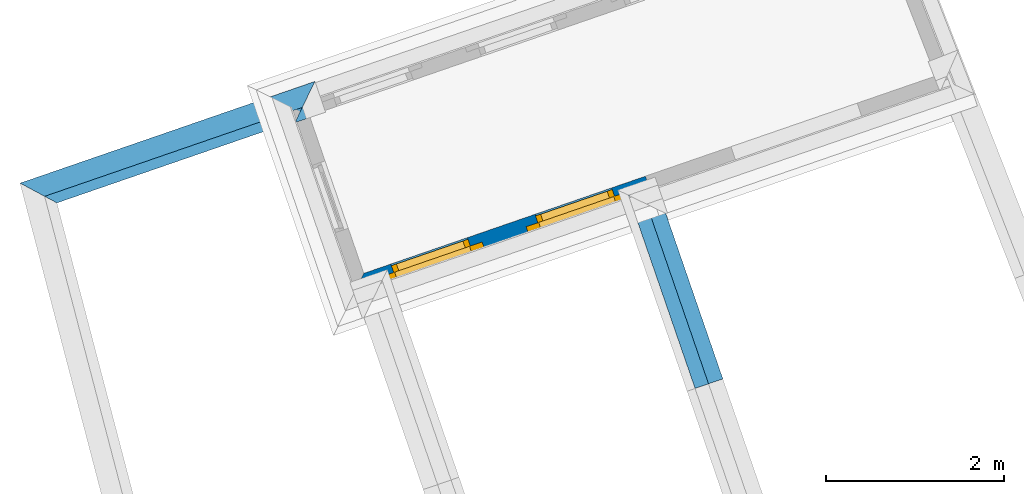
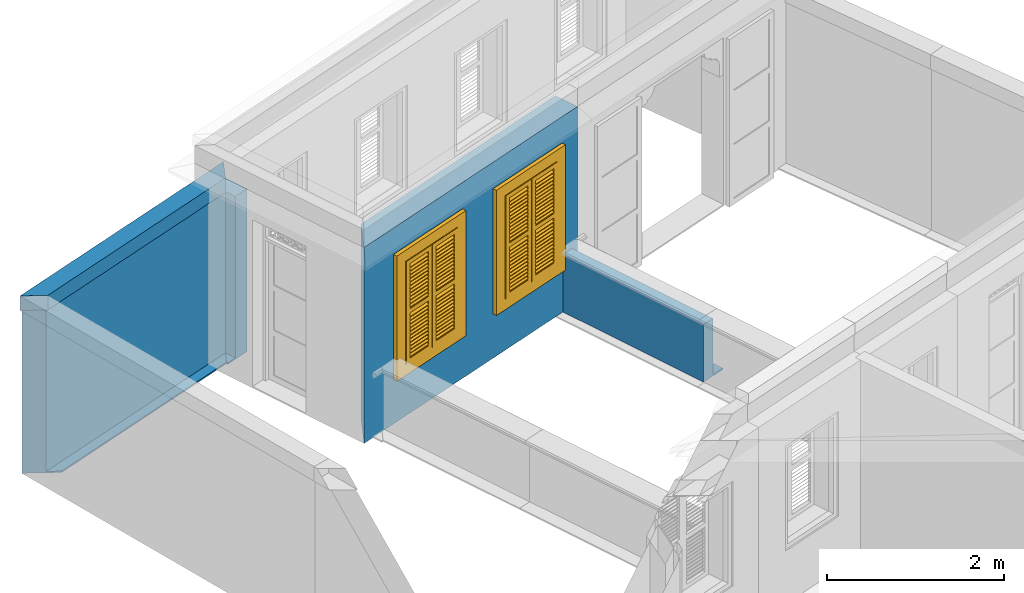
# One storey, part 11 of 16: 5 walls, 2 windows, 2 openings.
"""IFC4 building model written with IfcOpenShell, lengths in metres."""

from ifc_helpers import new_model, si_unit, frame, origin, origin_with_axes, place, context, subcontext, project, spatial, polyline, outline, extrude, clip, halfspace, faceted_brep, source, transform, mapped, material, layer, layer_set, layer_usage, material_profile, profile_set, profile_usage, type_object, type_shapes, element, fill, save


model = new_model("IFC4")

# Units and contexts
model_context = context("Model", 3, world=origin_with_axes())
body_context = subcontext(model_context, "Body", "Model", "MODEL_VIEW")
ifc_project = project(units=[si_unit("PLANEANGLEUNIT", "RADIAN"), si_unit("MASSUNIT", "GRAM", prefix="KILO"), si_unit("FORCEUNIT", "NEWTON", prefix="KILO"), si_unit("LENGTHUNIT", "METRE"), si_unit("AREAUNIT", "SQUARE_METRE"), si_unit("VOLUMEUNIT", "CUBIC_METRE")], contexts=[model_context, model_context])

# Site, building, storey
site_placement = place(None, origin_with_axes())
site = spatial("IfcSite", under=ifc_project, at=site_placement, Name="Site plot-8", CompositionType="ELEMENT")
building_placement = place(None, origin_with_axes())
building = spatial("IfcBuilding", under=site, at=building_placement, Name="Building plot-8", CompositionType="ELEMENT")
storey_placement = place(None, frame((0.0, 0.0, 3.0), z_axis=(0.0, 0.0, 1.0), x_axis=(1.0, 0.0, 0.0)))
storey = spatial("IfcBuildingStorey", under=building, at=storey_placement, Name="plot-8 1", CompositionType="ELEMENT", Elevation=3.0)

# Wall, openings, windows
ifc_material = material(Name="Masonry")
ifc_layer = layer(ifc_material, 0.33, ventilated=False)
ifc_layer_set = layer_set([ifc_layer], Name="exterior_0.08_0.25")
ifc_layer_usage = layer_usage(ifc_layer_set, "AXIS2", "POSITIVE", -0.25)
wall_type_1 = type_object("IfcWallType", Name="exterior_0.08_0.25", PredefinedType="SOLIDWALL", material=ifc_layer_set)
wall_1_placement = place(storey_placement, frame((-11.6006556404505, 20.5643458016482, 0.0), z_axis=(0.0, 0.0, 1.0), x_axis=(0.945331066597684, 0.326112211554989, 0.0)))
wall_1 = element("IfcWall", 1, at=wall_1_placement, inside=storey, type_object=wall_type_1, material=ifc_layer_usage, Name="exterior", context=body_context, shape_type="SweptSolid", body=[
    extrude(outline(polyline([(0.0799999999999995, 0.0800000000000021), (-0.25, -0.25), (3.4250971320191, -0.250000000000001), (3.4250971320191, 0.0799999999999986), (0.0799999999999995, 0.0800000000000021)])), origin_with_axes(), (0.0, 0.0, 1.0), 2.7),
])
opening_1_placement = place(wall_1_placement, frame((0.401274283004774, 0.0, 0.75)))
opening_1 = element("IfcOpeningElement", 2, at=opening_1_placement, cuts=wall_1, Name="My Opening", ObjectType="Opening", context=body_context, shape_type="SweptSolid", body=[
    extrude(outline(polyline([(0.0, -0.270000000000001), (0.910000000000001, -0.270000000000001), (0.910000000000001, 1.1), (5.55111512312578e-17, 1.1), (0.0, -0.270000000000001)])), origin_with_axes(), (0.0, 0.0, 1.0), 1.445),
])
opening_2_placement = place(wall_1_placement, frame((2.11382284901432, 0.0, 0.75)))
opening_2 = element("IfcOpeningElement", 3, at=opening_2_placement, cuts=wall_1, Name="My Opening", ObjectType="Opening", context=body_context, shape_type="SweptSolid", body=[
    extrude(outline(polyline([(0.0, -0.269999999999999), (0.91, -0.269999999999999), (0.91, 1.1), (-1.33226762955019e-15, 1.1), (0.0, -0.269999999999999)])), origin_with_axes(), (0.0, 0.0, 1.0), 1.445),
])
window_type = type_object("IfcWindowType", Name="shuttered_shorter", PartitioningType="DOUBLE_PANEL_HORIZONTAL", PredefinedType="NOTDEFINED")
shared_shape = source(origin(), body_context, "Body", "Brep", [
    faceted_brep([(0.393, 0.0, 0.622), (0.074, 0.0, 0.622), (0.074, 0.0, 0.632), (0.393, 0.0, 0.632), (0.074, -0.04, 0.592), (0.393, -0.04, 0.592), (0.393, -0.04, 0.582), (0.074, -0.04, 0.582), (0.517, 0.0, 0.682), (0.836, 0.0, 0.682), (0.836, 0.0, 0.672), (0.517, 0.0, 0.672), (0.517, -0.04, 0.642), (0.836, -0.04, 0.642), (0.836, -0.04, 0.632), (0.517, -0.04, 0.632), (0.517, 0.0, 0.632), (0.836, 0.0, 0.632), (0.836, 0.0, 0.622), (0.517, 0.0, 0.622), (0.517, -0.04, 0.592), (0.836, -0.04, 0.592), (0.836, -0.04, 0.582), (0.517, -0.04, 0.582), (0.517, 0.0, 0.232), (0.836, 0.0, 0.232), (0.836, 0.0, 0.222), (0.517, 0.0, 0.222), (0.517, -0.04, 0.192), (0.836, -0.04, 0.192), (0.836, -0.04, 0.182), (0.517, -0.04, 0.182), (0.517, 0.0, 0.532), (0.836, 0.0, 0.532), (0.836, 0.0, 0.522), (0.517, 0.0, 0.522), (0.517, -0.04, 0.492), (0.836, -0.04, 0.492), (0.836, -0.04, 0.482), (0.517, -0.04, 0.482), (0.517, 0.0, 0.482), (0.836, 0.0, 0.482), (0.836, 0.0, 0.472), (0.517, 0.0, 0.472), (0.517, -0.04, 0.442), (0.836, -0.04, 0.442), (0.836, -0.04, 0.432), (0.517, -0.04, 0.432), (0.517, 0.0, 0.582), (0.836, 0.0, 0.582), (0.836, 0.0, 0.572), (0.517, 0.0, 0.572), (0.517, -0.04, 0.542), (0.836, -0.04, 0.542), (0.836, -0.04, 0.532), (0.517, -0.04, 0.532), (0.517, 0.0, 0.182), (0.836, 0.0, 0.182), (0.836, 0.0, 0.172), (0.517, 0.0, 0.172), (0.517, -0.04, 0.142), (0.836, -0.04, 0.142), (0.836, -0.04, 0.132), (0.517, -0.04, 0.132), (0.517, 0.0, 0.382), (0.836, 0.0, 0.382), (0.836, 0.0, 0.372), (0.517, 0.0, 0.372), (0.517, -0.04, 0.342), (0.836, -0.04, 0.342), (0.836, -0.04, 0.332), (0.517, -0.04, 0.332), (0.517, 0.0, 0.432), (0.836, 0.0, 0.432), (0.836, 0.0, 0.422), (0.517, 0.0, 0.422), (0.517, -0.04, 0.392), (0.836, -0.04, 0.392), (0.836, -0.04, 0.382), (0.517, -0.04, 0.382), (0.517, 0.0, 0.132), (0.836, 0.0, 0.132), (0.836, 0.0, 0.122), (0.517, 0.0, 0.122), (0.517, -0.04, 0.092), (0.836, -0.04, 0.092), (0.836, -0.04, 0.082), (0.517, -0.04, 0.082), (0.517, 0.0, 0.282), (0.836, 0.0, 0.282), (0.836, 0.0, 0.272), (0.517, 0.0, 0.272), (0.517, -0.04, 0.242), (0.836, -0.04, 0.242), (0.836, -0.04, 0.232), (0.517, -0.04, 0.232), (0.517, 0.0, 0.332), (0.836, 0.0, 0.332), (0.836, 0.0, 0.322), (0.517, 0.0, 0.322), (0.517, -0.04, 0.292), (0.836, -0.04, 0.292), (0.836, -0.04, 0.282), (0.517, -0.04, 0.282), (0.517, 0.0, 1.362667), (0.836, 0.0, 1.362667), (0.836, 0.0, 1.352667), (0.517, 0.0, 1.352667), (0.517, -0.04, 1.322667), (0.836, -0.04, 1.322667), (0.836, -0.04, 1.312667), (0.517, -0.04, 1.312667), (0.517, 0.0, 1.312667), (0.836, 0.0, 1.312667), (0.836, 0.0, 1.302667), (0.517, 0.0, 1.302667), (0.517, -0.04, 1.272667), (0.836, -0.04, 1.272667), (0.836, -0.04, 1.262667), (0.517, -0.04, 1.262667), (0.517, 0.0, 0.912667), (0.836, 0.0, 0.912667), (0.836, 0.0, 0.902667), (0.517, 0.0, 0.902667), (0.517, -0.04, 0.872667), (0.836, -0.04, 0.872667), (0.836, -0.04, 0.862667), (0.517, -0.04, 0.862667), (0.517, 0.0, 1.212667), (0.836, 0.0, 1.212667), (0.836, 0.0, 1.202667), (0.517, 0.0, 1.202667), (0.517, -0.04, 1.172667), (0.836, -0.04, 1.172667), (0.836, -0.04, 1.162667), (0.517, -0.04, 1.162667), (0.517, 0.0, 1.162667), (0.836, 0.0, 1.162667), (0.836, 0.0, 1.152667), (0.517, 0.0, 1.152667), (0.517, -0.04, 1.122667), (0.836, -0.04, 1.122667), (0.836, -0.04, 1.112667), (0.517, -0.04, 1.112667), (0.517, 0.0, 1.262667), (0.836, 0.0, 1.262667), (0.836, 0.0, 1.252667), (0.517, 0.0, 1.252667), (0.517, -0.04, 1.222667), (0.836, -0.04, 1.222667), (0.836, -0.04, 1.212667), (0.517, -0.04, 1.212667), (0.517, 0.0, 0.862667), (0.836, 0.0, 0.862667), (0.836, 0.0, 0.852667), (0.517, 0.0, 0.852667), (0.517, -0.04, 0.822667), (0.836, -0.04, 0.822667), (0.836, -0.04, 0.812667), (0.517, -0.04, 0.812667), (0.517, 0.0, 1.062667), (0.836, 0.0, 1.062667), (0.836, 0.0, 1.052667), (0.517, 0.0, 1.052667), (0.517, -0.04, 1.022667), (0.836, -0.04, 1.022667), (0.836, -0.04, 1.012667), (0.517, -0.04, 1.012667), (0.517, 0.0, 1.112667), (0.836, 0.0, 1.112667), (0.836, 0.0, 1.102667), (0.517, 0.0, 1.102667), (0.517, -0.04, 1.072667), (0.836, -0.04, 1.072667), (0.836, -0.04, 1.062667), (0.517, -0.04, 1.062667), (0.517, 0.0, 0.812667), (0.836, 0.0, 0.812667), (0.836, 0.0, 0.802667), (0.517, 0.0, 0.802667), (0.517, -0.04, 0.772667), (0.836, -0.04, 0.772667), (0.836, -0.04, 0.762667), (0.517, -0.04, 0.762667), (0.517, 0.0, 0.962667), (0.836, 0.0, 0.962667), (0.836, 0.0, 0.952667), (0.517, 0.0, 0.952667), (0.517, -0.04, 0.922667), (0.836, -0.04, 0.922667), (0.836, -0.04, 0.912667), (0.517, -0.04, 0.912667), (0.517, 0.0, 1.012667), (0.836, 0.0, 1.012667), (0.836, 0.0, 1.002667), (0.517, 0.0, 1.002667), (0.517, -0.04, 0.972667), (0.836, -0.04, 0.972667), (0.836, -0.04, 0.962667), (0.517, -0.04, 0.962667), (0.074, 0.0, 0.682), (0.393, 0.0, 0.682), (0.393, 0.0, 0.672), (0.074, 0.0, 0.672), (0.074, -0.04, 0.642), (0.393, -0.04, 0.642), (0.393, -0.04, 0.632), (0.074, -0.04, 0.632), (0.074, 0.0, 0.232), (0.393, 0.0, 0.232), (0.393, 0.0, 0.222), (0.074, 0.0, 0.222), (0.074, -0.04, 0.192), (0.393, -0.04, 0.192), (0.393, -0.04, 0.182), (0.074, -0.04, 0.182), (0.074, 0.0, 0.532), (0.393, 0.0, 0.532), (0.393, 0.0, 0.522), (0.074, 0.0, 0.522), (0.074, -0.04, 0.492), (0.393, -0.04, 0.492), (0.393, -0.04, 0.482), (0.074, -0.04, 0.482), (0.074, 0.0, 0.482), (0.393, 0.0, 0.482), (0.393, 0.0, 0.472), (0.074, 0.0, 0.472), (0.074, -0.04, 0.442), (0.393, -0.04, 0.442), (0.393, -0.04, 0.432), (0.074, -0.04, 0.432), (0.074, 0.0, 0.582), (0.393, 0.0, 0.582), (0.393, 0.0, 0.572), (0.074, 0.0, 0.572), (0.074, -0.04, 0.542), (0.393, -0.04, 0.542), (0.393, -0.04, 0.532), (0.074, -0.04, 0.532), (0.074, 0.0, 0.182), (0.393, 0.0, 0.182), (0.393, 0.0, 0.172), (0.074, 0.0, 0.172), (0.074, -0.04, 0.142), (0.393, -0.04, 0.142), (0.393, -0.04, 0.132), (0.074, -0.04, 0.132), (0.074, 0.0, 0.382), (0.393, 0.0, 0.382), (0.393, 0.0, 0.372), (0.074, 0.0, 0.372), (0.074, -0.04, 0.342), (0.393, -0.04, 0.342), (0.393, -0.04, 0.332), (0.074, -0.04, 0.332), (0.074, 0.0, 0.432), (0.393, 0.0, 0.432), (0.393, 0.0, 0.422), (0.074, 0.0, 0.422), (0.074, -0.04, 0.392), (0.393, -0.04, 0.392), (0.393, -0.04, 0.382), (0.074, -0.04, 0.382), (0.074, 0.0, 0.132), (0.393, 0.0, 0.132), (0.393, 0.0, 0.122), (0.074, 0.0, 0.122), (0.074, -0.04, 0.092), (0.393, -0.04, 0.092), (0.393, -0.04, 0.082), (0.074, -0.04, 0.082), (0.074, 0.0, 0.282), (0.393, 0.0, 0.282), (0.393, 0.0, 0.272), (0.074, 0.0, 0.272), (0.074, -0.04, 0.242), (0.393, -0.04, 0.242), (0.393, -0.04, 0.232), (0.074, -0.04, 0.232), (0.074, 0.0, 0.332), (0.393, 0.0, 0.332), (0.393, 0.0, 0.322), (0.074, 0.0, 0.322), (0.074, -0.04, 0.292), (0.393, -0.04, 0.292), (0.393, -0.04, 0.282), (0.074, -0.04, 0.282), (0.074, 0.0, 1.362667), (0.393, 0.0, 1.362667), (0.393, 0.0, 1.352667), (0.074, 0.0, 1.352667), (0.074, -0.04, 1.322667), (0.393, -0.04, 1.322667), (0.393, -0.04, 1.312667), (0.074, -0.04, 1.312667), (0.074, 0.0, 1.312667), (0.393, 0.0, 1.312667), (0.393, 0.0, 1.302667), (0.074, 0.0, 1.302667), (0.074, -0.04, 1.272667), (0.393, -0.04, 1.272667), (0.393, -0.04, 1.262667), (0.074, -0.04, 1.262667), (0.074, 0.0, 0.912667), (0.393, 0.0, 0.912667), (0.393, 0.0, 0.902667), (0.074, 0.0, 0.902667), (0.074, -0.04, 0.872667), (0.393, -0.04, 0.872667), (0.393, -0.04, 0.862667), (0.074, -0.04, 0.862667), (0.074, 0.0, 1.212667), (0.393, 0.0, 1.212667), (0.393, 0.0, 1.202667), (0.074, 0.0, 1.202667), (0.074, -0.04, 1.172667), (0.393, -0.04, 1.172667), (0.393, -0.04, 1.162667), (0.074, -0.04, 1.162667), (0.074, 0.0, 1.162667), (0.393, 0.0, 1.162667), (0.393, 0.0, 1.152667), (0.074, 0.0, 1.152667), (0.074, -0.04, 1.122667), (0.393, -0.04, 1.122667), (0.393, -0.04, 1.112667), (0.074, -0.04, 1.112667), (0.074, 0.0, 1.262667), (0.393, 0.0, 1.262667), (0.393, 0.0, 1.252667), (0.074, 0.0, 1.252667), (0.074, -0.04, 1.222667), (0.393, -0.04, 1.222667), (0.393, -0.04, 1.212667), (0.074, -0.04, 1.212667), (0.074, 0.0, 0.862667), (0.393, 0.0, 0.862667), (0.393, 0.0, 0.852667), (0.074, 0.0, 0.852667), (0.074, -0.04, 0.822667), (0.393, -0.04, 0.822667), (0.393, -0.04, 0.812667), (0.074, -0.04, 0.812667), (0.074, 0.0, 1.062667), (0.393, 0.0, 1.062667), (0.393, 0.0, 1.052667), (0.074, 0.0, 1.052667), (0.074, -0.04, 1.022667), (0.393, -0.04, 1.022667), (0.393, -0.04, 1.012667), (0.074, -0.04, 1.012667), (0.074, 0.0, 1.112667), (0.393, 0.0, 1.112667), (0.393, 0.0, 1.102667), (0.074, 0.0, 1.102667), (0.074, -0.04, 1.072667), (0.393, -0.04, 1.072667), (0.393, -0.04, 1.062667), (0.074, -0.04, 1.062667), (0.074, 0.0, 0.812667), (0.393, 0.0, 0.812667), (0.393, 0.0, 0.802667), (0.074, 0.0, 0.802667), (0.074, -0.04, 0.772667), (0.393, -0.04, 0.772667), (0.393, -0.04, 0.762667), (0.074, -0.04, 0.762667), (0.074, 0.0, 0.962667), (0.393, 0.0, 0.962667), (0.393, 0.0, 0.952667), (0.074, 0.0, 0.952667), (0.074, -0.04, 0.922667), (0.393, -0.04, 0.922667), (0.393, -0.04, 0.912667), (0.074, -0.04, 0.912667), (0.074, 0.0, 1.012667), (0.393, 0.0, 1.012667), (0.393, 0.0, 1.002667), (0.074, 0.0, 1.002667), (0.074, -0.04, 0.972667), (0.393, -0.04, 0.972667), (0.393, -0.04, 0.962667), (0.074, -0.04, 0.962667), (0.517, -0.04, 0.072), (0.457, -0.04, 0.012), (0.896, -0.04, 0.012), (0.836, -0.04, 0.072), (0.457, -0.04, 0.692667), (0.517, -0.04, 0.692667), (0.457, 0.0, 0.012), (0.896, 0.0, 0.012), (0.836, -0.04, 0.692667), (0.896, -0.04, 0.692667), (0.836, 0.0, 0.072), (0.517, 0.0, 0.072), (0.457, 0.0, 0.692667), (0.517, 0.0, 0.692667), (0.517, -0.04, 0.752666), (0.457, -0.04, 0.752666), (0.896, 0.0, 0.692667), (0.836, 0.0, 0.692667), (0.836, -0.04, 0.752666), (0.896, -0.04, 0.752666), (0.457, 0.0, 0.752666), (0.457, -0.04, 1.433333), (0.517, -0.04, 1.373333), (0.896, 0.0, 0.752666), (0.836, -0.04, 1.373333), (0.896, -0.04, 1.433333), (0.457, 0.0, 1.433333), (0.517, 0.0, 0.752666), (0.836, 0.0, 0.752666), (0.517, 0.0, 1.373333), (0.896, 0.0, 1.433333), (0.836, 0.0, 1.373333), (0.074, -0.04, 0.072), (0.014, -0.04, 0.012), (0.453, -0.04, 0.012), (0.393, -0.04, 0.072), (0.014, -0.04, 0.692667), (0.074, -0.04, 0.692667), (0.014, 0.0, 0.012), (0.453, 0.0, 0.012), (0.393, -0.04, 0.692667), (0.453, -0.04, 0.692667), (0.393, 0.0, 0.072), (0.074, 0.0, 0.072), (0.014, 0.0, 0.692667), (0.074, 0.0, 0.692667), (0.074, -0.04, 0.752666), (0.014, -0.04, 0.752666), (0.453, 0.0, 0.692667), (0.393, 0.0, 0.692667), (0.393, -0.04, 0.752666), (0.453, -0.04, 0.752666), (0.014, 0.0, 0.752666), (0.014, -0.04, 1.433333), (0.074, -0.04, 1.373333), (0.453, 0.0, 0.752666), (0.393, -0.04, 1.373333), (0.453, -0.04, 1.433333), (0.014, 0.0, 1.433333), (0.074, 0.0, 0.752666), (0.393, 0.0, 0.752666), (0.074, 0.0, 1.373333), (0.453, 0.0, 1.433333), (0.393, 0.0, 1.373333), (0.0, 0.33, 1.445), (0.91, 0.33, 1.445), (0.85, 0.33, 1.385), (0.06, 0.33, 1.385), (0.91, 0.25, 1.445), (0.0, 0.25, 1.445), (0.91, 0.25, 1.445), (0.85, 0.33, 0.06), (0.91, 0.33, 0.0), (0.85, 0.25, 1.385), (0.06, 0.25, 1.385), (0.0, 0.33, 0.0), (0.06, 0.33, 0.06), (0.0, 0.25, 0.0), (0.91, 0.25, 0.0), (0.85, 0.25, 0.06), (0.06, 0.25, 0.06), (1.05, 0.25, 1.585), (-0.14, 0.25, 1.585), (-0.14, -0.03, 1.585), (1.05, -0.03, 1.585), (0.9, -0.03, 1.435), (0.01, -0.03, 1.435), (0.01, 0.25, 1.435), (0.9, 0.25, 1.435), (0.9, 0.25, 0.01), (0.9, -0.03, 0.01), (1.05, -0.03, -0.14), (1.05, 0.25, -0.14), (0.01, -0.03, 0.01), (0.01, 0.25, 0.01), (-0.14, -0.03, -0.14), (-0.14, 0.25, -0.14)], [[[0, 1, 2, 3]], [[4, 5, 3, 2]], [[5, 6, 0, 3]], [[1, 0, 6, 7]], [[2, 1, 7, 4]], [[5, 4, 7, 6]], [[8, 9, 10, 11]], [[12, 13, 9, 8]], [[13, 14, 10, 9]], [[14, 15, 11, 10]], [[15, 12, 8, 11]], [[13, 12, 15, 14]], [[16, 17, 18, 19]], [[20, 21, 17, 16]], [[21, 22, 18, 17]], [[22, 23, 19, 18]], [[23, 20, 16, 19]], [[21, 20, 23, 22]], [[24, 25, 26, 27]], [[28, 29, 25, 24]], [[29, 30, 26, 25]], [[30, 31, 27, 26]], [[31, 28, 24, 27]], [[29, 28, 31, 30]], [[32, 33, 34, 35]], [[36, 37, 33, 32]], [[37, 38, 34, 33]], [[38, 39, 35, 34]], [[39, 36, 32, 35]], [[37, 36, 39, 38]], [[40, 41, 42, 43]], [[44, 45, 41, 40]], [[45, 46, 42, 41]], [[46, 47, 43, 42]], [[47, 44, 40, 43]], [[45, 44, 47, 46]], [[48, 49, 50, 51]], [[52, 53, 49, 48]], [[53, 54, 50, 49]], [[54, 55, 51, 50]], [[55, 52, 48, 51]], [[53, 52, 55, 54]], [[56, 57, 58, 59]], [[60, 61, 57, 56]], [[61, 62, 58, 57]], [[62, 63, 59, 58]], [[63, 60, 56, 59]], [[61, 60, 63, 62]], [[64, 65, 66, 67]], [[68, 69, 65, 64]], [[69, 70, 66, 65]], [[70, 71, 67, 66]], [[71, 68, 64, 67]], [[69, 68, 71, 70]], [[72, 73, 74, 75]], [[76, 77, 73, 72]], [[77, 78, 74, 73]], [[78, 79, 75, 74]], [[79, 76, 72, 75]], [[77, 76, 79, 78]], [[80, 81, 82, 83]], [[84, 85, 81, 80]], [[85, 86, 82, 81]], [[86, 87, 83, 82]], [[87, 84, 80, 83]], [[85, 84, 87, 86]], [[88, 89, 90, 91]], [[92, 93, 89, 88]], [[93, 94, 90, 89]], [[94, 95, 91, 90]], [[95, 92, 88, 91]], [[93, 92, 95, 94]], [[96, 97, 98, 99]], [[100, 101, 97, 96]], [[101, 102, 98, 97]], [[102, 103, 99, 98]], [[103, 100, 96, 99]], [[101, 100, 103, 102]], [[104, 105, 106, 107]], [[108, 109, 105, 104]], [[109, 110, 106, 105]], [[110, 111, 107, 106]], [[111, 108, 104, 107]], [[109, 108, 111, 110]], [[112, 113, 114, 115]], [[116, 117, 113, 112]], [[117, 118, 114, 113]], [[118, 119, 115, 114]], [[119, 116, 112, 115]], [[117, 116, 119, 118]], [[120, 121, 122, 123]], [[124, 125, 121, 120]], [[125, 126, 122, 121]], [[126, 127, 123, 122]], [[127, 124, 120, 123]], [[125, 124, 127, 126]], [[128, 129, 130, 131]], [[132, 133, 129, 128]], [[133, 134, 130, 129]], [[134, 135, 131, 130]], [[135, 132, 128, 131]], [[133, 132, 135, 134]], [[136, 137, 138, 139]], [[140, 141, 137, 136]], [[141, 142, 138, 137]], [[142, 143, 139, 138]], [[139, 143, 140, 136]], [[141, 140, 143, 142]], [[144, 145, 146, 147]], [[148, 149, 145, 144]], [[149, 150, 146, 145]], [[150, 151, 147, 146]], [[151, 148, 144, 147]], [[149, 148, 151, 150]], [[152, 153, 154, 155]], [[156, 157, 153, 152]], [[157, 158, 154, 153]], [[158, 159, 155, 154]], [[159, 156, 152, 155]], [[157, 156, 159, 158]], [[160, 161, 162, 163]], [[164, 165, 161, 160]], [[165, 166, 162, 161]], [[166, 167, 163, 162]], [[167, 164, 160, 163]], [[165, 164, 167, 166]], [[168, 169, 170, 171]], [[172, 173, 169, 168]], [[173, 174, 170, 169]], [[174, 175, 171, 170]], [[175, 172, 168, 171]], [[173, 172, 175, 174]], [[176, 177, 178, 179]], [[180, 181, 177, 176]], [[181, 182, 178, 177]], [[182, 183, 179, 178]], [[183, 180, 176, 179]], [[181, 180, 183, 182]], [[184, 185, 186, 187]], [[188, 189, 185, 184]], [[189, 190, 186, 185]], [[190, 191, 187, 186]], [[191, 188, 184, 187]], [[189, 188, 191, 190]], [[192, 193, 194, 195]], [[196, 197, 193, 192]], [[197, 198, 194, 193]], [[198, 199, 195, 194]], [[199, 196, 192, 195]], [[197, 196, 199, 198]], [[200, 201, 202, 203]], [[204, 205, 201, 200]], [[205, 206, 202, 201]], [[206, 207, 203, 202]], [[207, 204, 200, 203]], [[205, 204, 207, 206]], [[208, 209, 210, 211]], [[212, 213, 209, 208]], [[213, 214, 210, 209]], [[214, 215, 211, 210]], [[215, 212, 208, 211]], [[213, 212, 215, 214]], [[216, 217, 218, 219]], [[220, 221, 217, 216]], [[221, 222, 218, 217]], [[222, 223, 219, 218]], [[223, 220, 216, 219]], [[221, 220, 223, 222]], [[224, 225, 226, 227]], [[228, 229, 225, 224]], [[229, 230, 226, 225]], [[230, 231, 227, 226]], [[231, 228, 224, 227]], [[229, 228, 231, 230]], [[232, 233, 234, 235]], [[236, 237, 233, 232]], [[237, 238, 234, 233]], [[238, 239, 235, 234]], [[239, 236, 232, 235]], [[237, 236, 239, 238]], [[240, 241, 242, 243]], [[244, 245, 241, 240]], [[245, 246, 242, 241]], [[246, 247, 243, 242]], [[247, 244, 240, 243]], [[245, 244, 247, 246]], [[248, 249, 250, 251]], [[252, 253, 249, 248]], [[253, 254, 250, 249]], [[254, 255, 251, 250]], [[255, 252, 248, 251]], [[253, 252, 255, 254]], [[256, 257, 258, 259]], [[260, 261, 257, 256]], [[261, 262, 258, 257]], [[262, 263, 259, 258]], [[263, 260, 256, 259]], [[261, 260, 263, 262]], [[264, 265, 266, 267]], [[268, 269, 265, 264]], [[269, 270, 266, 265]], [[270, 271, 267, 266]], [[271, 268, 264, 267]], [[269, 268, 271, 270]], [[272, 273, 274, 275]], [[276, 277, 273, 272]], [[277, 278, 274, 273]], [[278, 279, 275, 274]], [[279, 276, 272, 275]], [[277, 276, 279, 278]], [[280, 281, 282, 283]], [[284, 285, 281, 280]], [[285, 286, 282, 281]], [[286, 287, 283, 282]], [[287, 284, 280, 283]], [[285, 284, 287, 286]], [[288, 289, 290, 291]], [[292, 293, 289, 288]], [[293, 294, 290, 289]], [[294, 295, 291, 290]], [[295, 292, 288, 291]], [[293, 292, 295, 294]], [[296, 297, 298, 299]], [[300, 301, 297, 296]], [[301, 302, 298, 297]], [[302, 303, 299, 298]], [[303, 300, 296, 299]], [[301, 300, 303, 302]], [[304, 305, 306, 307]], [[308, 309, 305, 304]], [[309, 310, 306, 305]], [[310, 311, 307, 306]], [[311, 308, 304, 307]], [[309, 308, 311, 310]], [[312, 313, 314, 315]], [[316, 317, 313, 312]], [[317, 318, 314, 313]], [[318, 319, 315, 314]], [[319, 316, 312, 315]], [[317, 316, 319, 318]], [[320, 321, 322, 323]], [[324, 325, 321, 320]], [[325, 326, 322, 321]], [[326, 327, 323, 322]], [[327, 324, 320, 323]], [[325, 324, 327, 326]], [[328, 329, 330, 331]], [[332, 333, 329, 328]], [[333, 334, 330, 329]], [[334, 335, 331, 330]], [[335, 332, 328, 331]], [[333, 332, 335, 334]], [[336, 337, 338, 339]], [[340, 341, 337, 336]], [[341, 342, 338, 337]], [[342, 343, 339, 338]], [[343, 340, 336, 339]], [[341, 340, 343, 342]], [[344, 345, 346, 347]], [[348, 349, 345, 344]], [[349, 350, 346, 345]], [[350, 351, 347, 346]], [[351, 348, 344, 347]], [[349, 348, 351, 350]], [[352, 353, 354, 355]], [[356, 357, 353, 352]], [[357, 358, 354, 353]], [[358, 359, 355, 354]], [[359, 356, 352, 355]], [[357, 356, 359, 358]], [[360, 361, 362, 363]], [[364, 365, 361, 360]], [[365, 366, 362, 361]], [[366, 367, 363, 362]], [[367, 364, 360, 363]], [[365, 364, 367, 366]], [[368, 369, 370, 371]], [[372, 373, 369, 368]], [[373, 374, 370, 369]], [[374, 375, 371, 370]], [[375, 372, 368, 371]], [[373, 372, 375, 374]], [[376, 377, 378, 379]], [[380, 381, 377, 376]], [[381, 382, 378, 377]], [[382, 383, 379, 378]], [[383, 380, 376, 379]], [[381, 380, 383, 382]], [[384, 385, 386, 387]], [[388, 385, 384, 389]], [[390, 391, 386, 385]], [[392, 387, 386, 393]], [[384, 387, 394, 395]], [[390, 385, 388, 396]], [[389, 384, 395, 397]], [[389, 398, 399, 388]], [[390, 395, 394, 391]], [[400, 393, 386, 391]], [[387, 392, 401, 394]], [[402, 392, 393, 403]], [[396, 388, 399, 404]], [[390, 396, 397, 395]], [[392, 389, 397, 401]], [[398, 389, 392, 402]], [[405, 399, 398, 406]], [[394, 401, 400, 391]], [[407, 403, 393, 400]], [[408, 402, 403, 409]], [[404, 399, 405, 410]], [[411, 397, 396, 404]], [[397, 411, 412, 401]], [[398, 402, 412, 411]], [[406, 398, 411, 413]], [[405, 406, 408, 409]], [[401, 412, 407, 400]], [[414, 409, 403, 407]], [[402, 408, 415, 412]], [[405, 409, 414, 410]], [[404, 410, 413, 411]], [[408, 406, 413, 415]], [[412, 415, 414, 407]], [[413, 410, 414, 415]], [[416, 417, 418, 419]], [[420, 417, 416, 421]], [[422, 423, 418, 417]], [[424, 419, 418, 425]], [[416, 419, 426, 427]], [[422, 417, 420, 428]], [[421, 416, 427, 429]], [[421, 430, 431, 420]], [[422, 427, 426, 423]], [[432, 425, 418, 423]], [[419, 424, 433, 426]], [[434, 424, 425, 435]], [[428, 420, 431, 436]], [[422, 428, 429, 427]], [[424, 421, 429, 433]], [[430, 421, 424, 434]], [[437, 431, 430, 438]], [[426, 433, 432, 423]], [[439, 435, 425, 432]], [[440, 434, 435, 441]], [[436, 431, 437, 442]], [[443, 429, 428, 436]], [[429, 443, 444, 433]], [[430, 434, 444, 443]], [[438, 430, 443, 445]], [[437, 438, 440, 441]], [[433, 444, 439, 432]], [[446, 441, 435, 439]], [[434, 440, 447, 444]], [[437, 441, 446, 442]], [[436, 442, 445, 443]], [[440, 438, 445, 447]], [[444, 447, 446, 439]], [[445, 442, 446, 447]], [[448, 449, 450, 451]], [[452, 449, 448]], [[448, 453, 454]], [[448, 454, 452]], [[455, 450, 449, 456]], [[451, 450, 457, 458]], [[459, 448, 451, 460]], [[448, 459, 461, 453]], [[454, 453, 458, 457]], [[462, 452, 454]], [[454, 457, 463]], [[454, 463, 462]], [[456, 449, 452, 462]], [[450, 455, 463, 457]], [[456, 459, 460, 455]], [[460, 451, 458, 464]], [[459, 456, 462, 461]], [[464, 458, 453, 461]], [[461, 462, 463, 464]], [[455, 460, 464, 463]], [[465, 466, 467, 468]], [[469, 470, 471, 472]], [[473, 474, 469, 472]], [[465, 468, 475, 476]], [[470, 477, 478, 471]], [[474, 473, 478, 477]], [[474, 477, 479, 475]], [[470, 467, 479, 477]], [[470, 469, 468, 467]], [[474, 475, 468, 469]], [[471, 478, 480, 466]], [[473, 472, 465, 476]], [[473, 476, 480, 478]], [[466, 465, 472, 471]], [[480, 476, 475, 479]], [[480, 479, 467, 466]]]),
])
type_shapes(window_type, [shared_shape])
window_1_placement = place(storey_placement, frame((-11.1332682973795, 20.4399668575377, 0.75), z_axis=(0.0, 0.0, 1.0), x_axis=(0.860251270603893, 0.29676211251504, 0.0)))
window_1 = element("IfcWindow", 4, at=window_1_placement, inside=storey, type_object=window_type, Name="circulation outside window", OverallHeight=1.445, OverallWidth=0.91, context=body_context, shape_type="MappedRepresentation", body=[
    mapped(shared_shape, transform((0.0, 0.0, 0.0), scale=1.0)),
])
fill(opening_1, window_1)
window_2_placement = place(storey_placement, frame((-9.51434293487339, 20.9984498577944, 0.75), z_axis=(0.0, 0.0, 1.0), x_axis=(0.860251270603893, 0.29676211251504, 0.0)))
window_2 = element("IfcWindow", 5, at=window_2_placement, inside=storey, type_object=window_type, Name="circulation outside window", OverallHeight=1.445, OverallWidth=0.91, context=body_context, shape_type="MappedRepresentation", body=[
    mapped(shared_shape, transform((0.0, 0.0, 0.0), scale=1.0)),
])
fill(opening_2, window_2)

# Walls
ifc_material_profile_1 = material_profile(None, outline(polyline([(0.25, 0.0), (0.25, 2.245), (0.05, 2.245), (0.05, 0.02), (-0.08, 0.02), (-0.08, 0.0), (0.25, 0.0)])))
ifc_profile_set_1 = profile_set([ifc_material_profile_1])
ifc_profile_usage_1 = profile_usage(ifc_profile_set_1)
wall_type_2 = type_object("IfcWallType", Name="parapet street_0", PredefinedType="PARAPET", material=ifc_profile_set_1)
wall_2_placement = place(storey_placement, frame((-12.5891238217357, 23.4297082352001, 0.0), z_axis=(0.326112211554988, -0.945331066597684, 0.0), x_axis=(0.945331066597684, 0.326112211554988, 0.0)))
element("IfcWall", 6, at=wall_2_placement, inside=storey, type_object=wall_type_2, material=ifc_profile_usage_1, Name="parapet street_0", context=body_context, shape_type="Clipping", body=[
    clip(clip(extrude(outline(polyline([(0.25, 0.0), (0.25, 2.245), (0.05, 2.245), (0.05, 0.02), (-0.08, 0.02), (-0.08, 0.0), (0.25, 0.0)])), origin_with_axes(), (0.0, 0.0, 1.0), 2.1), halfspace(frame((0.0, 0.0, 1.1), z_axis=(-5.0532154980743e-16, 0.0, -1.0), x_axis=(0.0, 1.0, 0.0)), True)), halfspace(frame((0.0, 0.0, 1.0), z_axis=(-0.707106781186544, 0.0, -0.707106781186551), x_axis=(0.0, 1.0, 0.0)), False)),
])
ifc_profile_usage_2 = profile_usage(ifc_profile_set_1)
wall_3_placement = place(storey_placement, frame((-16.0376889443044, 21.1822213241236, 0.0), z_axis=(0.945331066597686, 0.326112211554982, 0.0), x_axis=(-0.326112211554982, 0.945331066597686, 0.0)))
element("IfcWall", 7, at=wall_3_placement, inside=storey, type_object=wall_type_2, material=ifc_profile_usage_2, Name="parapet street_0", context=body_context, shape_type="Clipping", body=[
    clip(clip(extrude(outline(polyline([(0.25, 0.0), (0.25, 2.245), (0.05, 2.245), (0.05, 0.02), (-0.08, 0.02), (-0.08, 0.0), (0.25, 0.0)])), origin_with_axes(), (0.0, 0.0, 1.0), 4.99296867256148), halfspace(frame((0.0, 0.0, 3.99296867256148), z_axis=(0.707106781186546, 0.0, -0.707106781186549), x_axis=(0.0, 1.0, 0.0)), True)), halfspace(frame((0.0, 0.0, 1.0), z_axis=(-0.67959383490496, 0.0, -0.733588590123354), x_axis=(0.0, 1.0, 0.0)), False)),
])
ifc_material_profile_2 = material_profile(None, outline(polyline([(0.265, 2.245), (0.265, 2.445), (0.035, 2.445), (0.035, 2.245), (0.265, 2.245)])))
ifc_profile_set_2 = profile_set([ifc_material_profile_2])
ifc_profile_usage_3 = profile_usage(ifc_profile_set_2)
wall_type_3 = type_object("IfcWallType", Name="parapet street_1", PredefinedType="PARAPET", material=ifc_profile_set_2)
wall_4_placement = place(storey_placement, frame((-16.0376889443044, 21.1822213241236, 0.0), z_axis=(0.945331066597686, 0.326112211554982, 0.0), x_axis=(-0.326112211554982, 0.945331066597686, 0.0)))
element("IfcWall", 8, at=wall_4_placement, inside=storey, type_object=wall_type_3, material=ifc_profile_usage_3, Name="parapet street_1", context=body_context, shape_type="Clipping", body=[
    clip(clip(extrude(outline(polyline([(0.265, 2.245), (0.265, 2.445), (0.035, 2.445), (0.035, 2.245), (0.265, 2.245)])), origin_with_axes(), (0.0, 0.0, 1.0), 4.99296867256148), halfspace(frame((0.0, 0.0, 3.99296867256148), z_axis=(0.707106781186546, 0.0, -0.707106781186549), x_axis=(0.0, 1.0, 0.0)), True)), halfspace(frame((0.0, 0.0, 1.0), z_axis=(-0.67959383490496, 0.0, -0.733588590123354), x_axis=(0.0, 1.0, 0.0)), False)),
])
ifc_material_profile_3 = material_profile(None, outline(polyline([(0.25, 0.0), (0.25, 0.795), (0.09, 0.795), (0.09, 0.02), (-0.08, 0.02), (-0.08, 0.0), (0.25, 0.0)])))
ifc_profile_set_3 = profile_set([ifc_material_profile_3])
ifc_profile_usage_4 = profile_usage(ifc_profile_set_3)
wall_type_4 = type_object("IfcWallType", Name="parapet internal_0", PredefinedType="PARAPET", material=ifc_profile_set_3)
wall_5_placement = place(storey_placement, frame((-7.26873878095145, 18.5098429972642, 0.0), z_axis=(-0.326112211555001, 0.94533106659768, 0.0), x_axis=(-0.94533106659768, -0.326112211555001, 0.0)))
element("IfcWall", 9, at=wall_5_placement, inside=storey, type_object=wall_type_4, material=ifc_profile_usage_4, Name="parapet internal_0", context=body_context, shape_type="Clipping", body=[
    clip(clip(extrude(outline(polyline([(0.25, 0.0), (0.25, 0.795), (0.09, 0.795), (0.09, 0.02), (-0.08, 0.02), (-0.08, 0.0), (0.25, 0.0)])), origin_with_axes(), (0.0, 0.0, 1.0), 4.04487631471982), halfspace(frame((0.0, 0.0, 3.04487631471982), z_axis=(0.707106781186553, 0.0, -0.707106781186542), x_axis=(0.0, 1.0, 0.0)), True)), halfspace(frame((0.0, 0.0, 1.0), z_axis=(1.71512449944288e-15, 0.0, -1.0), x_axis=(0.0, 1.0, 0.0)), False)),
])

save(model, "model.ifc")
